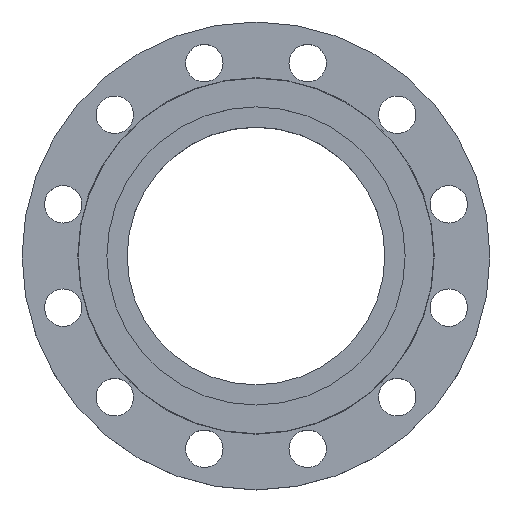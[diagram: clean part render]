
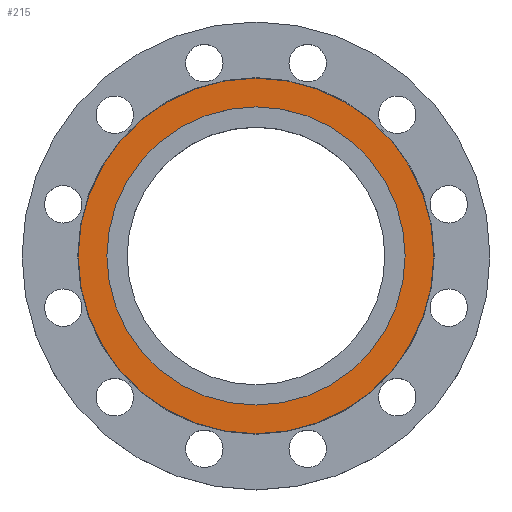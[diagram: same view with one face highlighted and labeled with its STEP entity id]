
A CAD part, top view. The second image highlights one B-rep face of the part: STEP entity #215.
In plain terms, the highlighted planar face has unit normal (0, 0, 1).
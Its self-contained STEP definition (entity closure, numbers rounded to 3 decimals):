
#53 = DIRECTION ( 'NONE',  ( 1., 0., 0. ) ) ;
#55 = DIRECTION ( 'NONE',  ( 0., 0., 1. ) ) ;
#56 = AXIS2_PLACEMENT_3D ( 'NONE', #57, #55, #53 ) ;
#57 = CARTESIAN_POINT ( 'NONE',  ( 0., 0., 0. ) ) ;
#59 = PLANE ( 'NONE',  #56 ) ;
#63 = FACE_BOUND ( 'NONE', #534, .T. ) ;
#64 = FACE_OUTER_BOUND ( 'NONE', #1461, .T. ) ;
#78 = CARTESIAN_POINT ( 'NONE',  ( 119.5, 0., 0. ) ) ;
#79 = CARTESIAN_POINT ( 'NONE',  ( 0., 0., 0. ) ) ;
#123 = DIRECTION ( 'NONE',  ( 0., 0., -1. ) ) ;
#194 = VERTEX_POINT ( 'NONE', #78 ) ;
#215 = ADVANCED_FACE ( 'NONE', ( #64, #63 ), #59, .T. ) ;
#235 = DIRECTION ( 'NONE',  ( -1., 0., 0. ) ) ;
#284 = EDGE_CURVE ( 'NONE', #644, #386, #1024, .T. ) ;
#386 = VERTEX_POINT ( 'NONE', #1088 ) ;
#490 = EDGE_CURVE ( 'NONE', #194, #1493, #808, .T. ) ;
#512 = ORIENTED_EDGE ( 'NONE', *, *, #1331, .F. ) ;
#520 = ORIENTED_EDGE ( 'NONE', *, *, #284, .F. ) ;
#522 = ORIENTED_EDGE ( 'NONE', *, *, #1012, .T. ) ;
#527 = ORIENTED_EDGE ( 'NONE', *, *, #490, .T. ) ;
#534 = EDGE_LOOP ( 'NONE', ( #522, #527 ) ) ;
#554 = DIRECTION ( 'NONE',  ( -1., 0., 0. ) ) ;
#644 = VERTEX_POINT ( 'NONE', #977 ) ;
#710 = DIRECTION ( 'NONE',  ( 0., 0., -1. ) ) ;
#731 = DIRECTION ( 'NONE',  ( -1., 0., 0. ) ) ;
#808 = CIRCLE ( 'NONE', #949, 119.5 ) ;
#818 = CARTESIAN_POINT ( 'NONE',  ( -119.5, 0., 0. ) ) ;
#822 = AXIS2_PLACEMENT_3D ( 'NONE', #79, #710, #1044 ) ;
#827 = CIRCLE ( 'NONE', #822, 142.5 ) ;
#872 = CARTESIAN_POINT ( 'NONE',  ( 0., 0., 0. ) ) ;
#879 = CIRCLE ( 'NONE', #886, 119.5 ) ;
#886 = AXIS2_PLACEMENT_3D ( 'NONE', #1026, #1375, #554 ) ;
#949 = AXIS2_PLACEMENT_3D ( 'NONE', #872, #1200, #235 ) ;
#977 = CARTESIAN_POINT ( 'NONE',  ( 142.5, 0., 0. ) ) ;
#1008 = AXIS2_PLACEMENT_3D ( 'NONE', #1159, #123, #731 ) ;
#1012 = EDGE_CURVE ( 'NONE', #1493, #194, #879, .T. ) ;
#1024 = CIRCLE ( 'NONE', #1008, 142.5 ) ;
#1026 = CARTESIAN_POINT ( 'NONE',  ( 0., 0., 0. ) ) ;
#1044 = DIRECTION ( 'NONE',  ( -1., 0., 0. ) ) ;
#1088 = CARTESIAN_POINT ( 'NONE',  ( -142.5, 0., 0. ) ) ;
#1159 = CARTESIAN_POINT ( 'NONE',  ( 0., 0., 0. ) ) ;
#1200 = DIRECTION ( 'NONE',  ( 0., 0., -1. ) ) ;
#1331 = EDGE_CURVE ( 'NONE', #386, #644, #827, .T. ) ;
#1375 = DIRECTION ( 'NONE',  ( 0., 0., -1. ) ) ;
#1461 = EDGE_LOOP ( 'NONE', ( #512, #520 ) ) ;
#1493 = VERTEX_POINT ( 'NONE', #818 ) ;
